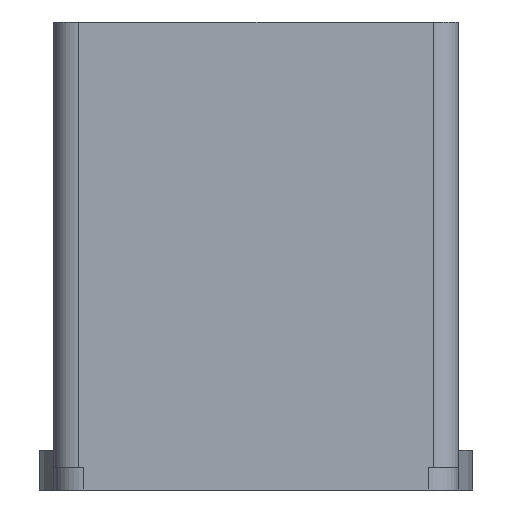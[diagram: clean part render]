
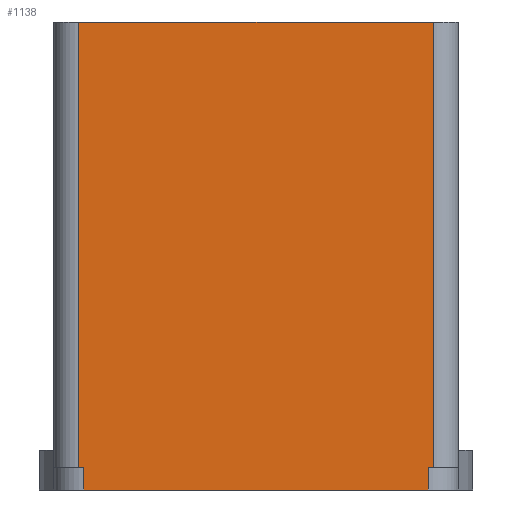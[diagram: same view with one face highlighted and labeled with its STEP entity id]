
A CAD part, left-side view. The second image highlights one B-rep face of the part: STEP entity #1138.
In plain terms, the highlighted planar face has unit normal (-1, 0, 0).
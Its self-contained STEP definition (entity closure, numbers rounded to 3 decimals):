
#45 = PLANE('',#46);
#46 = AXIS2_PLACEMENT_3D('',#47,#48,#49);
#47 = CARTESIAN_POINT('',(0.,0.,0.));
#48 = DIRECTION('',(0.,0.,1.));
#49 = DIRECTION('',(1.,0.,-0.));
#426 = PLANE('',#427);
#427 = AXIS2_PLACEMENT_3D('',#428,#429,#430);
#428 = CARTESIAN_POINT('',(-159.15,-20.25,46.9));
#429 = DIRECTION('',(0.,0.,1.));
#430 = DIRECTION('',(1.,0.,0.));
#904 = PLANE('',#905);
#905 = AXIS2_PLACEMENT_3D('',#906,#907,#908);
#906 = CARTESIAN_POINT('',(-159.15,-20.25,2.3));
#907 = DIRECTION('',(0.,0.,1.));
#908 = DIRECTION('',(1.,0.,0.));
#932 = CYLINDRICAL_SURFACE('',#933,2.5);
#933 = AXIS2_PLACEMENT_3D('',#934,#935,#936);
#934 = CARTESIAN_POINT('',(-156.65,-17.75,2.3));
#935 = DIRECTION('',(0.,0.,1.));
#936 = DIRECTION('',(-1.,0.,0.));
#1049 = CYLINDRICAL_SURFACE('',#1050,3.);
#1050 = AXIS2_PLACEMENT_3D('',#1051,#1052,#1053);
#1051 = CARTESIAN_POINT('',(-156.15,-17.25,0.));
#1052 = DIRECTION('',(0.,0.,1.));
#1053 = DIRECTION('',(-1.,-0.,0.));
#1064 = EDGE_CURVE('',#1065,#1067,#1069,.T.);
#1065 = VERTEX_POINT('',#1066);
#1066 = CARTESIAN_POINT('',(-159.15,-17.25,0.));
#1067 = VERTEX_POINT('',#1068);
#1068 = CARTESIAN_POINT('',(-159.15,-17.25,2.3));
#1069 = SURFACE_CURVE('',#1070,(#1074,#1081),.PCURVE_S1.);
#1070 = LINE('',#1071,#1072);
#1071 = CARTESIAN_POINT('',(-159.15,-17.25,0.));
#1072 = VECTOR('',#1073,1.);
#1073 = DIRECTION('',(0.,0.,1.));
#1074 = PCURVE('',#1049,#1075);
#1075 = DEFINITIONAL_REPRESENTATION('',(#1076),#1080);
#1076 = LINE('',#1077,#1078);
#1077 = CARTESIAN_POINT('',(0.,0.));
#1078 = VECTOR('',#1079,1.);
#1079 = DIRECTION('',(0.,1.));
#1080 = ( GEOMETRIC_REPRESENTATION_CONTEXT(2) 
PARAMETRIC_REPRESENTATION_CONTEXT() REPRESENTATION_CONTEXT('2D SPACE',''
  ) );
#1081 = PCURVE('',#1082,#1087);
#1082 = PLANE('',#1083);
#1083 = AXIS2_PLACEMENT_3D('',#1084,#1085,#1086);
#1084 = CARTESIAN_POINT('',(-159.15,-20.25,0.));
#1085 = DIRECTION('',(1.,0.,-0.));
#1086 = DIRECTION('',(0.,0.,1.));
#1087 = DEFINITIONAL_REPRESENTATION('',(#1088),#1092);
#1088 = LINE('',#1089,#1090);
#1089 = CARTESIAN_POINT('',(0.,-3.));
#1090 = VECTOR('',#1091,1.);
#1091 = DIRECTION('',(1.,0.));
#1092 = ( GEOMETRIC_REPRESENTATION_CONTEXT(2) 
PARAMETRIC_REPRESENTATION_CONTEXT() REPRESENTATION_CONTEXT('2D SPACE',''
  ) );
#1138 = ADVANCED_FACE('',(#1139),#1082,.F.);
#1139 = FACE_BOUND('',#1140,.F.);
#1140 = EDGE_LOOP('',(#1141,#1166,#1189,#1210,#1211,#1234,#1262,#1290));
#1141 = ORIENTED_EDGE('',*,*,#1142,.F.);
#1142 = EDGE_CURVE('',#1143,#1145,#1147,.T.);
#1143 = VERTEX_POINT('',#1144);
#1144 = CARTESIAN_POINT('',(-159.15,-17.75,46.9));
#1145 = VERTEX_POINT('',#1146);
#1146 = CARTESIAN_POINT('',(-159.15,17.75,46.9));
#1147 = SURFACE_CURVE('',#1148,(#1152,#1159),.PCURVE_S1.);
#1148 = LINE('',#1149,#1150);
#1149 = CARTESIAN_POINT('',(-159.15,-20.25,46.9));
#1150 = VECTOR('',#1151,1.);
#1151 = DIRECTION('',(0.,1.,0.));
#1152 = PCURVE('',#1082,#1153);
#1153 = DEFINITIONAL_REPRESENTATION('',(#1154),#1158);
#1154 = LINE('',#1155,#1156);
#1155 = CARTESIAN_POINT('',(46.9,0.));
#1156 = VECTOR('',#1157,1.);
#1157 = DIRECTION('',(0.,-1.));
#1158 = ( GEOMETRIC_REPRESENTATION_CONTEXT(2) 
PARAMETRIC_REPRESENTATION_CONTEXT() REPRESENTATION_CONTEXT('2D SPACE',''
  ) );
#1159 = PCURVE('',#426,#1160);
#1160 = DEFINITIONAL_REPRESENTATION('',(#1161),#1165);
#1161 = LINE('',#1162,#1163);
#1162 = CARTESIAN_POINT('',(0.,0.));
#1163 = VECTOR('',#1164,1.);
#1164 = DIRECTION('',(0.,1.));
#1165 = ( GEOMETRIC_REPRESENTATION_CONTEXT(2) 
PARAMETRIC_REPRESENTATION_CONTEXT() REPRESENTATION_CONTEXT('2D SPACE',''
  ) );
#1166 = ORIENTED_EDGE('',*,*,#1167,.F.);
#1167 = EDGE_CURVE('',#1168,#1143,#1170,.T.);
#1168 = VERTEX_POINT('',#1169);
#1169 = CARTESIAN_POINT('',(-159.15,-17.75,2.3));
#1170 = SURFACE_CURVE('',#1171,(#1175,#1182),.PCURVE_S1.);
#1171 = LINE('',#1172,#1173);
#1172 = CARTESIAN_POINT('',(-159.15,-17.75,2.3));
#1173 = VECTOR('',#1174,1.);
#1174 = DIRECTION('',(0.,0.,1.));
#1175 = PCURVE('',#1082,#1176);
#1176 = DEFINITIONAL_REPRESENTATION('',(#1177),#1181);
#1177 = LINE('',#1178,#1179);
#1178 = CARTESIAN_POINT('',(2.3,-2.5));
#1179 = VECTOR('',#1180,1.);
#1180 = DIRECTION('',(1.,0.));
#1181 = ( GEOMETRIC_REPRESENTATION_CONTEXT(2) 
PARAMETRIC_REPRESENTATION_CONTEXT() REPRESENTATION_CONTEXT('2D SPACE',''
  ) );
#1182 = PCURVE('',#932,#1183);
#1183 = DEFINITIONAL_REPRESENTATION('',(#1184),#1188);
#1184 = LINE('',#1185,#1186);
#1185 = CARTESIAN_POINT('',(0.,0.));
#1186 = VECTOR('',#1187,1.);
#1187 = DIRECTION('',(0.,1.));
#1188 = ( GEOMETRIC_REPRESENTATION_CONTEXT(2) 
PARAMETRIC_REPRESENTATION_CONTEXT() REPRESENTATION_CONTEXT('2D SPACE',''
  ) );
#1189 = ORIENTED_EDGE('',*,*,#1190,.T.);
#1190 = EDGE_CURVE('',#1168,#1067,#1191,.T.);
#1191 = SURFACE_CURVE('',#1192,(#1196,#1203),.PCURVE_S1.);
#1192 = LINE('',#1193,#1194);
#1193 = CARTESIAN_POINT('',(-159.15,-20.25,2.3));
#1194 = VECTOR('',#1195,1.);
#1195 = DIRECTION('',(0.,1.,0.));
#1196 = PCURVE('',#1082,#1197);
#1197 = DEFINITIONAL_REPRESENTATION('',(#1198),#1202);
#1198 = LINE('',#1199,#1200);
#1199 = CARTESIAN_POINT('',(2.3,0.));
#1200 = VECTOR('',#1201,1.);
#1201 = DIRECTION('',(0.,-1.));
#1202 = ( GEOMETRIC_REPRESENTATION_CONTEXT(2) 
PARAMETRIC_REPRESENTATION_CONTEXT() REPRESENTATION_CONTEXT('2D SPACE',''
  ) );
#1203 = PCURVE('',#904,#1204);
#1204 = DEFINITIONAL_REPRESENTATION('',(#1205),#1209);
#1205 = LINE('',#1206,#1207);
#1206 = CARTESIAN_POINT('',(0.,0.));
#1207 = VECTOR('',#1208,1.);
#1208 = DIRECTION('',(0.,1.));
#1209 = ( GEOMETRIC_REPRESENTATION_CONTEXT(2) 
PARAMETRIC_REPRESENTATION_CONTEXT() REPRESENTATION_CONTEXT('2D SPACE',''
  ) );
#1210 = ORIENTED_EDGE('',*,*,#1064,.F.);
#1211 = ORIENTED_EDGE('',*,*,#1212,.T.);
#1212 = EDGE_CURVE('',#1065,#1213,#1215,.T.);
#1213 = VERTEX_POINT('',#1214);
#1214 = CARTESIAN_POINT('',(-159.15,17.25,0.));
#1215 = SURFACE_CURVE('',#1216,(#1220,#1227),.PCURVE_S1.);
#1216 = LINE('',#1217,#1218);
#1217 = CARTESIAN_POINT('',(-159.15,-20.25,0.));
#1218 = VECTOR('',#1219,1.);
#1219 = DIRECTION('',(-0.,1.,0.));
#1220 = PCURVE('',#1082,#1221);
#1221 = DEFINITIONAL_REPRESENTATION('',(#1222),#1226);
#1222 = LINE('',#1223,#1224);
#1223 = CARTESIAN_POINT('',(0.,0.));
#1224 = VECTOR('',#1225,1.);
#1225 = DIRECTION('',(0.,-1.));
#1226 = ( GEOMETRIC_REPRESENTATION_CONTEXT(2) 
PARAMETRIC_REPRESENTATION_CONTEXT() REPRESENTATION_CONTEXT('2D SPACE',''
  ) );
#1227 = PCURVE('',#45,#1228);
#1228 = DEFINITIONAL_REPRESENTATION('',(#1229),#1233);
#1229 = LINE('',#1230,#1231);
#1230 = CARTESIAN_POINT('',(-159.15,-20.25));
#1231 = VECTOR('',#1232,1.);
#1232 = DIRECTION('',(0.,1.));
#1233 = ( GEOMETRIC_REPRESENTATION_CONTEXT(2) 
PARAMETRIC_REPRESENTATION_CONTEXT() REPRESENTATION_CONTEXT('2D SPACE',''
  ) );
#1234 = ORIENTED_EDGE('',*,*,#1235,.T.);
#1235 = EDGE_CURVE('',#1213,#1236,#1238,.T.);
#1236 = VERTEX_POINT('',#1237);
#1237 = CARTESIAN_POINT('',(-159.15,17.25,2.3));
#1238 = SURFACE_CURVE('',#1239,(#1243,#1250),.PCURVE_S1.);
#1239 = LINE('',#1240,#1241);
#1240 = CARTESIAN_POINT('',(-159.15,17.25,0.));
#1241 = VECTOR('',#1242,1.);
#1242 = DIRECTION('',(0.,0.,1.));
#1243 = PCURVE('',#1082,#1244);
#1244 = DEFINITIONAL_REPRESENTATION('',(#1245),#1249);
#1245 = LINE('',#1246,#1247);
#1246 = CARTESIAN_POINT('',(0.,-37.5));
#1247 = VECTOR('',#1248,1.);
#1248 = DIRECTION('',(1.,0.));
#1249 = ( GEOMETRIC_REPRESENTATION_CONTEXT(2) 
PARAMETRIC_REPRESENTATION_CONTEXT() REPRESENTATION_CONTEXT('2D SPACE',''
  ) );
#1250 = PCURVE('',#1251,#1256);
#1251 = CYLINDRICAL_SURFACE('',#1252,3.);
#1252 = AXIS2_PLACEMENT_3D('',#1253,#1254,#1255);
#1253 = CARTESIAN_POINT('',(-156.15,17.25,0.));
#1254 = DIRECTION('',(0.,0.,1.));
#1255 = DIRECTION('',(-1.,-0.,0.));
#1256 = DEFINITIONAL_REPRESENTATION('',(#1257),#1261);
#1257 = LINE('',#1258,#1259);
#1258 = CARTESIAN_POINT('',(-0.,0.));
#1259 = VECTOR('',#1260,1.);
#1260 = DIRECTION('',(-0.,1.));
#1261 = ( GEOMETRIC_REPRESENTATION_CONTEXT(2) 
PARAMETRIC_REPRESENTATION_CONTEXT() REPRESENTATION_CONTEXT('2D SPACE',''
  ) );
#1262 = ORIENTED_EDGE('',*,*,#1263,.T.);
#1263 = EDGE_CURVE('',#1236,#1264,#1266,.T.);
#1264 = VERTEX_POINT('',#1265);
#1265 = CARTESIAN_POINT('',(-159.15,17.75,2.3));
#1266 = SURFACE_CURVE('',#1267,(#1271,#1278),.PCURVE_S1.);
#1267 = LINE('',#1268,#1269);
#1268 = CARTESIAN_POINT('',(-159.15,-20.25,2.3));
#1269 = VECTOR('',#1270,1.);
#1270 = DIRECTION('',(0.,1.,0.));
#1271 = PCURVE('',#1082,#1272);
#1272 = DEFINITIONAL_REPRESENTATION('',(#1273),#1277);
#1273 = LINE('',#1274,#1275);
#1274 = CARTESIAN_POINT('',(2.3,0.));
#1275 = VECTOR('',#1276,1.);
#1276 = DIRECTION('',(0.,-1.));
#1277 = ( GEOMETRIC_REPRESENTATION_CONTEXT(2) 
PARAMETRIC_REPRESENTATION_CONTEXT() REPRESENTATION_CONTEXT('2D SPACE',''
  ) );
#1278 = PCURVE('',#1279,#1284);
#1279 = PLANE('',#1280);
#1280 = AXIS2_PLACEMENT_3D('',#1281,#1282,#1283);
#1281 = CARTESIAN_POINT('',(-159.15,-20.25,2.3));
#1282 = DIRECTION('',(0.,0.,1.));
#1283 = DIRECTION('',(1.,0.,0.));
#1284 = DEFINITIONAL_REPRESENTATION('',(#1285),#1289);
#1285 = LINE('',#1286,#1287);
#1286 = CARTESIAN_POINT('',(0.,0.));
#1287 = VECTOR('',#1288,1.);
#1288 = DIRECTION('',(0.,1.));
#1289 = ( GEOMETRIC_REPRESENTATION_CONTEXT(2) 
PARAMETRIC_REPRESENTATION_CONTEXT() REPRESENTATION_CONTEXT('2D SPACE',''
  ) );
#1290 = ORIENTED_EDGE('',*,*,#1291,.T.);
#1291 = EDGE_CURVE('',#1264,#1145,#1292,.T.);
#1292 = SURFACE_CURVE('',#1293,(#1297,#1304),.PCURVE_S1.);
#1293 = LINE('',#1294,#1295);
#1294 = CARTESIAN_POINT('',(-159.15,17.75,2.3));
#1295 = VECTOR('',#1296,1.);
#1296 = DIRECTION('',(0.,0.,1.));
#1297 = PCURVE('',#1082,#1298);
#1298 = DEFINITIONAL_REPRESENTATION('',(#1299),#1303);
#1299 = LINE('',#1300,#1301);
#1300 = CARTESIAN_POINT('',(2.3,-38.));
#1301 = VECTOR('',#1302,1.);
#1302 = DIRECTION('',(1.,0.));
#1303 = ( GEOMETRIC_REPRESENTATION_CONTEXT(2) 
PARAMETRIC_REPRESENTATION_CONTEXT() REPRESENTATION_CONTEXT('2D SPACE',''
  ) );
#1304 = PCURVE('',#1305,#1310);
#1305 = CYLINDRICAL_SURFACE('',#1306,2.5);
#1306 = AXIS2_PLACEMENT_3D('',#1307,#1308,#1309);
#1307 = CARTESIAN_POINT('',(-156.65,17.75,2.3));
#1308 = DIRECTION('',(0.,0.,1.));
#1309 = DIRECTION('',(-1.,0.,0.));
#1310 = DEFINITIONAL_REPRESENTATION('',(#1311),#1315);
#1311 = LINE('',#1312,#1313);
#1312 = CARTESIAN_POINT('',(-0.,0.));
#1313 = VECTOR('',#1314,1.);
#1314 = DIRECTION('',(-0.,1.));
#1315 = ( GEOMETRIC_REPRESENTATION_CONTEXT(2) 
PARAMETRIC_REPRESENTATION_CONTEXT() REPRESENTATION_CONTEXT('2D SPACE',''
  ) );
